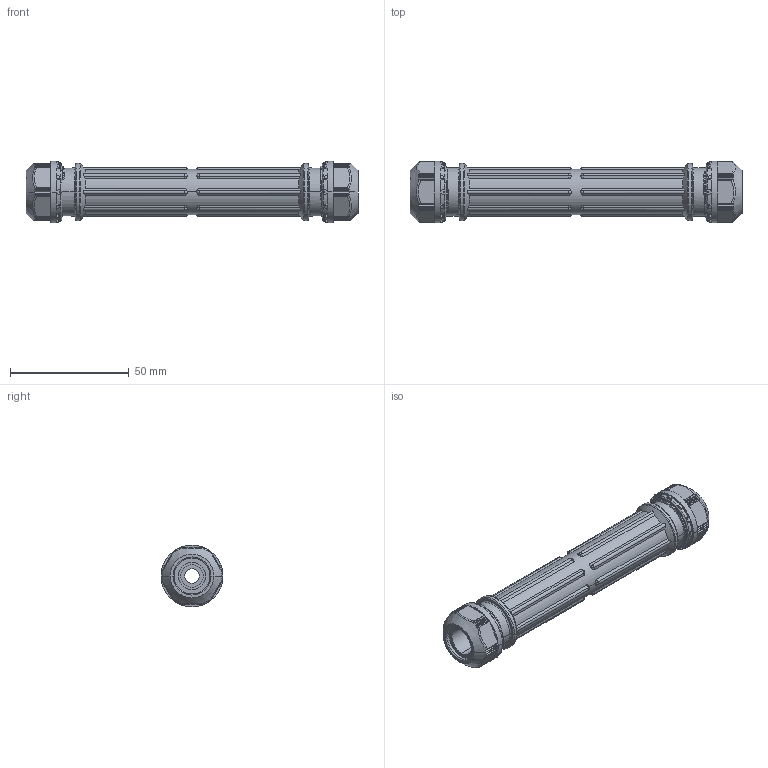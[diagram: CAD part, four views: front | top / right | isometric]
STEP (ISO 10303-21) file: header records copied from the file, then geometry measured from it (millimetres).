
FILE_DESCRIPTION(('Creo Elements/Direct Modeling STEP Export'),'2;1');
FILE_NAME('H03-0040-CL907_OA-QWL0911SN.stp','2012-09-19T15:59:58',(''),(''),'Creo Elements/Direct Modeling STEP processor for AP214 (Solid Model)','Creo Elements/Direct Modeling 18.0B 02-Dec-2011 (C) Parametric Technology GmbH','');
FILE_SCHEMA(('AUTOMOTIVE_DESIGN { 1 0 10303 214 1 1 1 1 }'));
Length unit declared in the file: millimetre
Products named in the file (8): OA-QWL_本体; G13-09B_L; G13-09A_L; G13-09_L; L側; G13-11_R; R側; OA-QWL0911SN
Assembly tree (7 placements, depth 4):
  OA-QWL0911SN
    R側
      G13-11_R
    L側
      G13-09_L
        G13-09A_L
        G13-09B_L
    OA-QWL_本体
Bounding box: 139.63 x 26 x 26 mm (x, y, z)
Volume: 27768.6 mm3; surface area: 23201.5 mm2
Topology: 4 solids, 4 shells, 709 faces, 1851 edges, 1151 vertices
Faces by surface type: plane 299, cylinder 273, cone 56, torus 49, bspline 16, sphere 16
Entity records: 31518 total; most frequent: CARTESIAN_POINT 15285, ORIENTED_EDGE 3670, DIRECTION 2782, EDGE_CURVE 1835, VERTEX_POINT 1151, AXIS2_PLACEMENT_3D 1015, VECTOR 752, LINE 752
